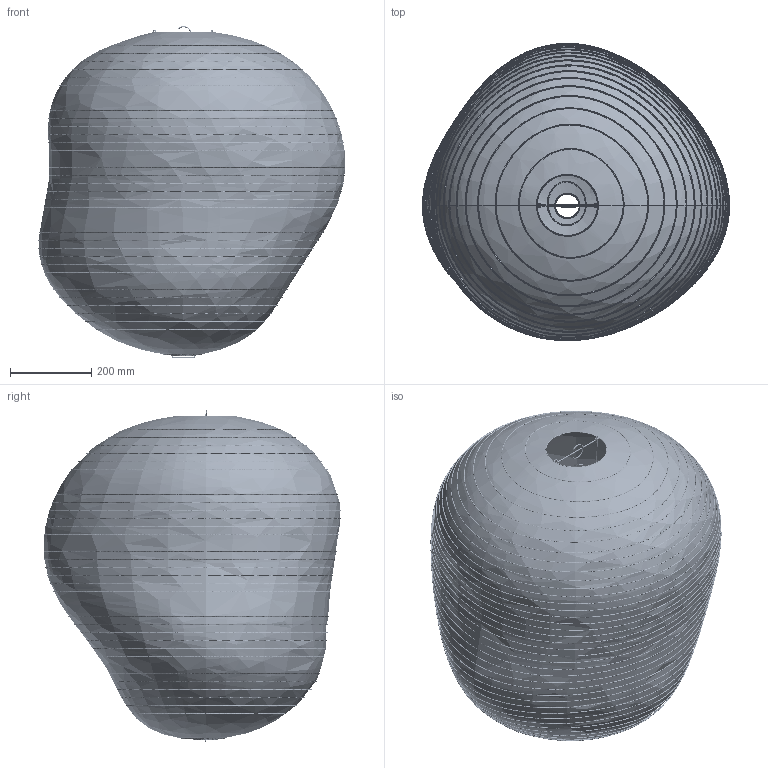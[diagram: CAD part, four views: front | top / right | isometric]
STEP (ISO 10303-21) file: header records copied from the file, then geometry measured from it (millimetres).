
FILE_DESCRIPTION(/* description */ (''),/* implementation_level */ '2;1');
FILE_NAME(/* name */ 'Kurbis_Lampshade_80_3D',/* time_stamp */ '2023-07-20T14:06:06+02:00',/* author */ (''),/* organization */ (''),/* preprocessor_version */ 'ST-DEVELOPER v16.5',/* originating_system */ 'Rhino 7.31',/* authorisation */ '');
FILE_SCHEMA (('CONFIG_CONTROL_DESIGN'));
Length unit declared in the file: millimetre
Products named in the file (1): Document
Bounding box: 755.38 x 731.22 x 816.38 mm (x, y, z)
Volume: 309454.3 mm3; surface area: 2543643.6 mm2
Topology: 60 solids, 68 shells, 310 faces, 638 edges, 326 vertices
Faces by surface type: bspline 300, cylinder 10
Entity records: 71761 total; most frequent: CARTESIAN_POINT 68366, ORIENTED_EDGE 1236, EDGE_CURVE 634, VERTEX_POINT 326, ADVANCED_FACE 310, FACE_OUTER_BOUND 310, EDGE_LOOP 310, MANIFOLD_SOLID_BREP 60
